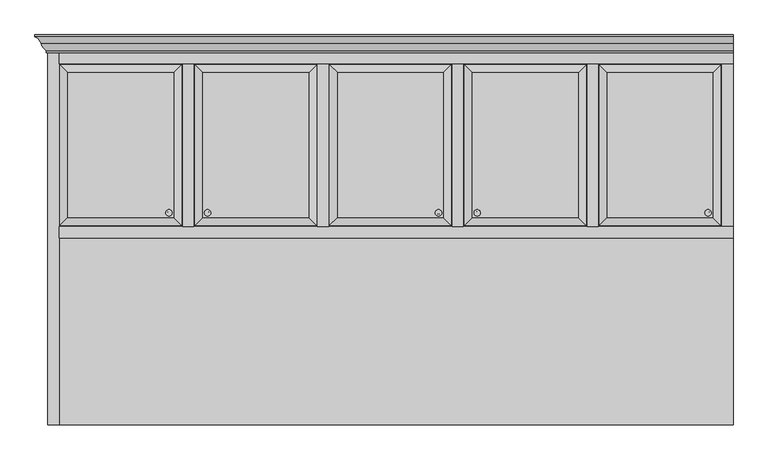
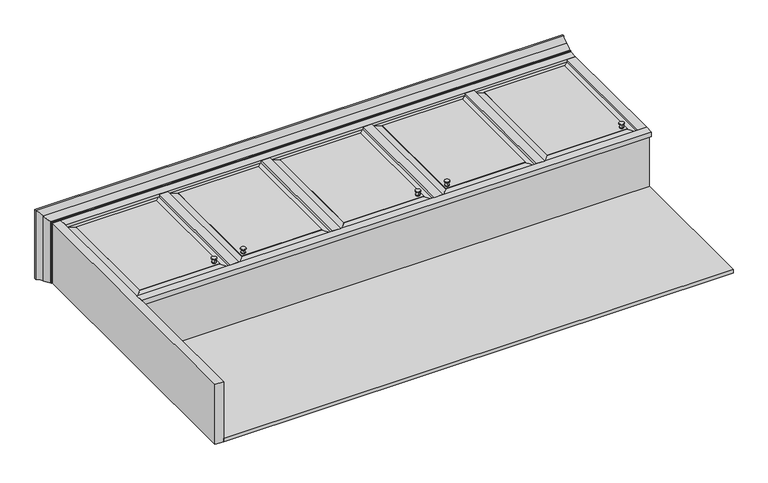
"""IFC4 building model written with IfcOpenShell, lengths in millimetres: proxy geometry, CCN^BRIGHTON_L4 HIGH RISE-5 DOOR SOLID ASSEMBLY."""

from ifc_helpers import new_model, si_unit, point, frame, origin, origin_with_axes, place, context, project, spatial, polyline, circle_curve, ellipse_curve, trimmed, outline, extrude, faceted_brep, source, transform, mapped, element, save
from ifc_brep_helpers import plane_surface, cylinder_surface, revolved_surface, advanced_brep


def generic_models_944e4012(model_context):
    return source(origin(), model_context, "Body", "SolidModel", [
        advanced_brep(
        [(476.885, 822.525, 351.2), (476.885, 822.525, 355.2), (476.885, 847.525, 355.2), (476.885, 847.525, 351.2), (476.885, 828.525, 342.1285106), (476.885, 824.525, 334.2), (476.885, 845.525, 334.2), (476.885, 841.525, 342.1285106), (476.885, 824.525, 330.2), (476.885, 845.525, 330.2)],
        [
            (0, 1),
            (1, 2, circle_curve(frame((476.885, 835.025, 355.2), z_axis=(0.0, 0.0, -1.0), x_axis=(0.0, -1.0, 0.0)), 12.5)),
            (2, 3),
            (3, 0, circle_curve(frame((476.885, 835.025, 351.2), z_axis=(0.0, 0.0, 1.0), x_axis=(0.0, -1.0, 0.0)), 12.5)),
            (0, 4, circle_curve(frame((476.885, 818.66734, 342.1285106), z_axis=(-1.0, 0.0, 0.0), x_axis=(0.0, -1.0, 0.0)), 9.85766)),
            (4, 5, circle_curve(frame((476.885, 818.66734, 342.1285106), z_axis=(-1.0, 0.0, 0.0), x_axis=(0.0, -1.0, 0.0)), 9.85766)),
            (5, 6, circle_curve(frame((476.885, 835.025, 334.2), z_axis=(0.0, 0.0, 1.0), x_axis=(0.0, -1.0, 0.0)), 10.5)),
            (6, 7, circle_curve(frame((476.885, 851.38266, 342.1285106), z_axis=(-1.0, 0.0, 0.0), x_axis=(0.0, 1.0, 0.0)), 9.85766)),
            (7, 3, circle_curve(frame((476.885, 851.38266, 342.1285106), z_axis=(-1.0, 0.0, 0.0), x_axis=(0.0, 1.0, 0.0)), 9.85766)),
            (3, 0, circle_curve(frame((476.885, 835.025, 351.2), z_axis=(0.0, 0.0, -1.0), x_axis=(0.0, -1.0, 0.0)), 12.5)),
            (8, 5),
            (5, 6, circle_curve(frame((476.885, 835.025, 334.2), z_axis=(0.0, 0.0, -1.0), x_axis=(0.0, -1.0, 0.0)), 10.5)),
            (6, 9),
            (9, 8, circle_curve(frame((476.885, 835.025, 330.2), z_axis=(0.0, 0.0, 1.0), x_axis=(0.0, -1.0, 0.0)), 10.5)),
            (9, 8, circle_curve(frame((476.885, 835.025, 330.2), z_axis=(0.0, 0.0, -1.0), x_axis=(0.0, -1.0, 0.0)), 10.5)),
            (2, 1, circle_curve(frame((476.885, 835.025, 355.2), z_axis=(0.0, 0.0, -1.0), x_axis=(0.0, -1.0, 0.0)), 12.5)),
        ],
        [
            cylinder_surface(frame((476.885, 835.025, 353.2), z_axis=(0.0, 0.0, 1.0), x_axis=(0.0, -1.0, 0.0)), 12.5),
            revolved_surface(trimmed(ellipse_curve(frame((476.885, 818.66734, 342.1285106), z_axis=(1.0, 0.0, 0.0), x_axis=(0.0, -1.0, 0.0)), 9.85766, 9.85766), [point((476.885, 824.525, 334.2))], [point((476.885, 822.525, 351.2))], True, "CARTESIAN"), (476.885, 835.025, 342.1285106), (0.0, 0.0, 1.0)),
            cylinder_surface(frame((476.885, 835.025, 332.2), z_axis=(0.0, 0.0, 1.0), x_axis=(0.0, -1.0, 0.0)), 10.5),
            plane_surface(frame((476.885, 824.525, 330.2), z_axis=(0.0, 0.0, -1.0), x_axis=(0.0, 1.0, 0.0))),
            revolved_surface(trimmed(ellipse_curve(frame((476.885, 851.38266, 342.1285106), z_axis=(-1.0, 0.0, 0.0), x_axis=(0.0, 1.0, 0.0)), 9.85766, 9.85766), [point((476.885, 845.525, 334.2))], [point((476.885, 847.525, 351.2))], True, "CARTESIAN"), (476.885, 835.025, 342.1285106), (0.0, 0.0, 1.0)),
            plane_surface(frame((476.885, 835.025, 355.2), z_axis=(0.0, 0.0, 1.0), x_axis=(0.0, -1.0, 0.0))),
        ],
        [
            (0, [[1, 2, 3, 4]]),
            (1, [[5, 6, 7, 8, 9, 10]]),
            (2, [[11, 12, 13, 14]]),
            (3, [[15, -14]]),
            (2, [[-11, -15, -13, -7]]),
            (4, [[-5, -4, -9, -8, -12, -6]]),
            (0, [[-1, -10, -3, 16]]),
            (5, [[-16, -2]]),
        ],
    ),
        advanced_brep(
        [(1691.005, 822.525, 351.2), (1691.005, 822.525, 355.2), (1691.005, 847.525, 355.2), (1691.005, 847.525, 351.2), (1691.005, 828.525, 342.1285106), (1691.005, 824.525, 334.2), (1691.005, 845.525, 334.2), (1691.005, 841.525, 342.1285106), (1691.005, 824.525, 330.2), (1691.005, 845.525, 330.2)],
        [
            (0, 1),
            (1, 2, circle_curve(frame((1691.005, 835.025, 355.2), z_axis=(0.0, 0.0, -1.0), x_axis=(0.0, -1.0, 0.0)), 12.5)),
            (2, 3),
            (3, 0, circle_curve(frame((1691.005, 835.025, 351.2), z_axis=(0.0, 0.0, 1.0), x_axis=(0.0, -1.0, 0.0)), 12.5)),
            (0, 4, circle_curve(frame((1691.005, 818.66734, 342.1285106), z_axis=(-1.0, 0.0, 0.0), x_axis=(0.0, -1.0, 0.0)), 9.85766)),
            (4, 5, circle_curve(frame((1691.005, 818.66734, 342.1285106), z_axis=(-1.0, 0.0, 0.0), x_axis=(0.0, -1.0, 0.0)), 9.85766)),
            (5, 6, circle_curve(frame((1691.005, 835.025, 334.2), z_axis=(0.0, 0.0, 1.0), x_axis=(0.0, -1.0, 0.0)), 10.5)),
            (6, 7, circle_curve(frame((1691.005, 851.38266, 342.1285106), z_axis=(-1.0, 0.0, 0.0), x_axis=(0.0, 1.0, 0.0)), 9.85766)),
            (7, 3, circle_curve(frame((1691.005, 851.38266, 342.1285106), z_axis=(-1.0, 0.0, 0.0), x_axis=(0.0, 1.0, 0.0)), 9.85766)),
            (3, 0, circle_curve(frame((1691.005, 835.025, 351.2), z_axis=(0.0, 0.0, -1.0), x_axis=(0.0, -1.0, 0.0)), 12.5)),
            (8, 5),
            (5, 6, circle_curve(frame((1691.005, 835.025, 334.2), z_axis=(0.0, 0.0, -1.0), x_axis=(0.0, -1.0, 0.0)), 10.5)),
            (6, 9),
            (9, 8, circle_curve(frame((1691.005, 835.025, 330.2), z_axis=(0.0, 0.0, 1.0), x_axis=(0.0, -1.0, 0.0)), 10.5)),
            (9, 8, circle_curve(frame((1691.005, 835.025, 330.2), z_axis=(0.0, 0.0, -1.0), x_axis=(0.0, -1.0, 0.0)), 10.5)),
            (2, 1, circle_curve(frame((1691.005, 835.025, 355.2), z_axis=(0.0, 0.0, -1.0), x_axis=(0.0, -1.0, 0.0)), 12.5)),
        ],
        [
            cylinder_surface(frame((1691.005, 835.025, 353.2), z_axis=(0.0, 0.0, 1.0), x_axis=(0.0, -1.0, 0.0)), 12.5),
            revolved_surface(trimmed(ellipse_curve(frame((1691.005, 818.66734, 342.1285106), z_axis=(1.0, 0.0, 0.0), x_axis=(0.0, -1.0, 0.0)), 9.85766, 9.85766), [point((1691.005, 824.525, 334.2))], [point((1691.005, 822.525, 351.2))], True, "CARTESIAN"), (1691.005, 835.025, 342.1285106), (0.0, 0.0, 1.0)),
            cylinder_surface(frame((1691.005, 835.025, 332.2), z_axis=(0.0, 0.0, 1.0), x_axis=(0.0, -1.0, 0.0)), 10.5),
            plane_surface(frame((1691.005, 824.525, 330.2), z_axis=(0.0, 0.0, -1.0), x_axis=(0.0, 1.0, 0.0))),
            revolved_surface(trimmed(ellipse_curve(frame((1691.005, 851.38266, 342.1285106), z_axis=(-1.0, 0.0, 0.0), x_axis=(0.0, 1.0, 0.0)), 9.85766, 9.85766), [point((1691.005, 845.525, 334.2))], [point((1691.005, 847.525, 351.2))], True, "CARTESIAN"), (1691.005, 835.025, 342.1285106), (0.0, 0.0, 1.0)),
            plane_surface(frame((1691.005, 835.025, 355.2), z_axis=(0.0, 0.0, 1.0), x_axis=(0.0, -1.0, 0.0))),
        ],
        [
            (0, [[1, 2, 3, 4]]),
            (1, [[5, 6, 7, 8, 9, 10]]),
            (2, [[11, 12, 13, 14]]),
            (3, [[15, -14]]),
            (2, [[-11, -15, -13, -7]]),
            (4, [[-5, -4, -9, -8, -12, -6]]),
            (0, [[-1, -10, -3, 16]]),
            (5, [[-16, -2]]),
        ],
    ),
        extrude(outline(polyline([(0.0, 1485.9), (2698.75, 1485.9), (2698.75, 1466.85), (0.0, 1466.85), (0.0, 1485.9)])), origin_with_axes(), (0.0, 0.0, 1.0), 330.2),
        extrude(outline(polyline([(44.45, 1422.4), (44.45, 1466.85), (2698.75, 1466.85), (2698.75, 1422.4), (44.45, 1422.4)])), frame((0.0, 0.0, 304.8), z_axis=(0.0, 0.0, 1.0), x_axis=(1.0, 0.0, 0.0)), (0.0, 0.0, 1.0), 25.4),
        faceted_brep([(495.935, 1387.475, 327.025), (495.935, 815.975, 327.025), (527.685, 784.225, 318.5176131), (527.685, 1419.225, 318.5176131), (47.625, 784.225, 318.5176131), (79.375, 815.975, 327.025), (47.625, 1419.225, 318.5176131), (79.375, 1387.475, 327.025), (527.685, 1419.225, 304.8), (47.625, 1419.225, 304.8), (527.685, 784.225, 304.8), (495.935, 815.975, 330.2), (79.375, 815.975, 330.2), (79.375, 1387.475, 330.2), (495.935, 1387.475, 330.2), (47.625, 784.225, 304.8)], [[[0, 1, 2, 3]], [[4, 2, 1, 5]], [[6, 4, 5, 7]], [[3, 6, 7, 0]], [[6, 3, 8, 9]], [[3, 2, 10, 8]], [[11, 12, 5, 1]], [[12, 13, 7, 5]], [[13, 14, 0, 7]], [[14, 11, 1, 0]], [[4, 6, 9, 15]], [[2, 4, 15, 10]], [[12, 11, 14, 13]], [[10, 15, 9, 8]]]),
        extrude(outline(polyline([(2698.75, 0.0), (44.45, 0.0), (44.45, 1466.85), (2698.75, 1466.85), (2698.75, 0.0)])), origin_with_axes(), (0.0, 0.0, 1.0), 19.05),
        extrude(outline(polyline([(44.45, 781.05), (2698.75, 781.05), (2698.75, 755.65), (44.45, 755.65), (44.45, 781.05)])), frame((0.0, 0.0, 19.05), z_axis=(0.0, 0.0, 1.0), x_axis=(1.0, 0.0, 0.0)), (0.0, 0.0, 1.0), 285.75),
        advanced_brep(
        [(23.5654847, 1466.85, 0.0), (-25.3440118, 1536.7, 0.0), (-25.3440118, 1536.7, 355.5440118), (23.5654847, 1466.85, 306.6345153), (-5.5626, 1466.85, 0.0), (-5.5626, 1473.5900246, 0.0), (-26.7133719, 1502.7938145, 0.0), (-50.8, 1528.7752, 0.0), (-50.8, 1536.7, 0.0), (2698.75, 1466.85, 306.6345153), (2698.75, 1466.85, 335.7626), (-5.5626, 1466.85, 335.7626), (2698.75, 1536.7, 355.5440118), (2698.75, 1536.7, 381.0), (2698.75, 1528.7752, 381.0), (2698.75, 1502.7938145, 356.9133719), (2698.75, 1473.5900246, 335.7626), (-5.5626, 1473.5900246, 335.7626), (-26.7133719, 1502.7938145, 356.9133719), (-50.8, 1528.7752, 381.0), (-50.8, 1536.7, 381.0)],
        [
            (0, 1),
            (1, 2),
            (2, 3),
            (3, 0),
            (0, 4),
            (4, 5),
            (5, 6, circle_curve(frame((22.3266, 1516.0498, 0.0), z_axis=(0.0, 0.0, -1.0), x_axis=(-1.0, 0.0, 0.0)), 50.8)),
            (6, 7, circle_curve(frame((-63.4933509, 1492.8518254, 0.0), z_axis=(0.0, 0.0, 1.0), x_axis=(-1.0, 0.0, 0.0)), 38.1)),
            (7, 8),
            (8, 1),
            (3, 9),
            (9, 10),
            (10, 11),
            (11, 4),
            (9, 12),
            (12, 13),
            (13, 14),
            (14, 15, circle_curve(frame((2698.75, 1492.8518254, 393.6933509), z_axis=(-1.0, 0.0, 0.0), x_axis=(0.0, 0.2609445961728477, -0.965353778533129)), 38.1)),
            (15, 16, circle_curve(frame((2698.75, 1516.0498, 307.8734), z_axis=(1.0, 0.0, 0.0), x_axis=(0.0, 0.260944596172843, -0.9653537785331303)), 50.8)),
            (16, 10),
            (17, 18, ellipse_curve(frame((22.3266, 1516.0498, 307.8734), z_axis=(-0.7071067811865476, 0.0, -0.7071067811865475), x_axis=(0.7071067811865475, 0.0, -0.7071067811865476)), 71.842049, 50.8)),
            (18, 6),
            (5, 17),
            (11, 17),
            (19, 20),
            (20, 8),
            (7, 19),
            (18, 19, ellipse_curve(frame((-63.4933509, 1492.8518254, 393.6933509), z_axis=(0.7071067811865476, 0.0, 0.7071067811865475), x_axis=(0.7071067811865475, 0.0, -0.7071067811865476)), 53.8815367, 38.1)),
            (17, 16),
            (15, 18),
            (2, 12),
            (14, 19),
            (20, 13),
        ],
        [
            plane_surface(frame((-25.3440118, 1536.7, 355.5440118), z_axis=(0.8191520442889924, 0.5735764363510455, 0.0), x_axis=(0.49754281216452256, -0.7105647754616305, -0.49754281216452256))),
            plane_surface(frame((-50.8, 1536.7, 0.0), z_axis=(0.0, 0.0, -1.0), x_axis=(-1.0, 0.0, 0.0))),
            plane_surface(frame((1323.975, 1466.85, 190.5), z_axis=(0.0, -1.0, 0.0), x_axis=(0.0, 0.0, -1.0))),
            plane_surface(frame((2698.75, 1492.25, 381.0), z_axis=(1.0, 0.0, 0.0), x_axis=(0.0, 0.0, -1.0))),
            cylinder_surface(frame((22.3266, 1516.0498, 307.8734), z_axis=(0.0, 0.0, -1.0), x_axis=(-1.0, 0.0, 0.0)), 50.8),
            plane_surface(frame((-5.5626, 1466.85, 335.7626), z_axis=(-1.0, 0.0, 0.0), x_axis=(0.0, 1.0, 0.0))),
            plane_surface(frame((-50.8, 1528.7752, 381.0), z_axis=(-1.0, 0.0, 0.0), x_axis=(0.0, 1.0, 0.0))),
            revolved_surface(polyline([(-101.5933509, 1492.8518254, 0.0), (-101.5933509, 1492.8518254, 431.7933508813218)]), (-63.4933509, 1492.8518254, 393.6933509), (0.0, 0.0, -1.0)),
            cylinder_surface(frame((2698.75, 1516.0498, 307.8734), z_axis=(-1.0000000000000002, 0.0, 0.0), x_axis=(0.0, 0.260944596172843, -0.9653537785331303)), 50.8),
            plane_surface(frame((2698.75, 1473.5900246, 335.7626), z_axis=(0.0, 0.0, 1.0), x_axis=(0.0, -1.0, 0.0))),
            plane_surface(frame((2698.75, 1500.505, 330.2), z_axis=(0.0, 0.5735764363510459, -0.819152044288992), x_axis=(0.0, 0.819152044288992, 0.5735764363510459))),
            revolved_surface(polyline([(-101.59335088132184, 1502.7938145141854, 356.91337193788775), (2698.75, 1502.7938145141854, 356.91337193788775)]), (2698.75, 1492.8518254, 393.6933509), (-1.0, 0.0, 0.0)),
            plane_surface(frame((1323.975, 1536.7, 190.5), z_axis=(0.0, 1.0, 0.0), x_axis=(0.0, 0.0, 1.0))),
            plane_surface(frame((-50.8, 1492.25, 381.0), z_axis=(0.0, 0.0, 1.0), x_axis=(1.0, 0.0, 0.0))),
        ],
        [
            (0, [[1, 2, 3, 4]]),
            (1, [[-1, 5, 6, 7, 8, 9, 10]]),
            (2, [[-4, 11, 12, 13, 14, -5]]),
            (3, [[-12, 15, 16, 17, 18, 19, 20]]),
            (4, [[21, 22, -7, 23]]),
            (5, [[24, -23, -6, -14]]),
            (6, [[25, 26, -9, 27]]),
            (7, [[28, -27, -8, -22]]),
            (8, [[29, -19, 30, -21]]),
            (9, [[-13, -20, -29, -24]]),
            (10, [[31, -15, -11, -3]]),
            (11, [[-30, -18, 32, -28]]),
            (12, [[33, -16, -31, -2, -10, -26]]),
            (13, [[-32, -17, -33, -25]]),
        ],
    ),
        faceted_brep([(1557.655, 1387.475, 327.025), (1557.655, 815.975, 327.025), (1589.405, 784.225, 318.5176131), (1589.405, 1419.225, 318.5176131), (1109.345, 784.225, 318.5176131), (1141.095, 815.975, 327.025), (1109.345, 1419.225, 318.5176131), (1141.095, 1387.475, 327.025), (1589.405, 1419.225, 304.8), (1109.345, 1419.225, 304.8), (1589.405, 784.225, 304.8), (1141.095, 1387.475, 330.2), (1557.655, 1387.475, 330.2), (1557.655, 815.975, 330.2), (1141.095, 815.975, 330.2), (1109.345, 784.225, 304.8)], [[[0, 1, 2, 3]], [[4, 2, 1, 5]], [[6, 4, 5, 7]], [[3, 6, 7, 0]], [[6, 3, 8, 9]], [[3, 2, 10, 8]], [[11, 12, 0, 7]], [[12, 13, 1, 0]], [[13, 14, 5, 1]], [[14, 11, 7, 5]], [[4, 6, 9, 15]], [[2, 4, 15, 10]], [[12, 11, 14, 13]], [[10, 15, 9, 8]]]),
        extrude(outline(polyline([(1106.17, 781.05), (1061.72, 781.05), (1061.72, 1422.4), (1106.17, 1422.4), (1106.17, 781.05)])), frame((0.0, 0.0, 304.8), z_axis=(0.0, 0.0, 1.0), x_axis=(1.0, 0.0, 0.0)), (0.0, 0.0, 1.0), 25.4),
        extrude(outline(polyline([(1637.03, 781.05), (1592.58, 781.05), (1592.58, 1422.4), (1637.03, 1422.4), (1637.03, 781.05)])), frame((0.0, 0.0, 304.8), z_axis=(0.0, 0.0, 1.0), x_axis=(1.0, 0.0, 0.0)), (0.0, 0.0, 1.0), 25.4),
        extrude(outline(polyline([(575.31, 781.05), (530.86, 781.05), (530.86, 1422.4), (575.31, 1422.4), (575.31, 781.05)])), frame((0.0, 0.0, 304.8), z_axis=(0.0, 0.0, 1.0), x_axis=(1.0, 0.0, 0.0)), (0.0, 0.0, 1.0), 25.4),
        extrude(outline(polyline([(2167.89, 781.05), (2123.44, 781.05), (2123.44, 1422.4), (2167.89, 1422.4), (2167.89, 781.05)])), frame((0.0, 0.0, 304.8), z_axis=(0.0, 0.0, 1.0), x_axis=(1.0, 0.0, 0.0)), (0.0, 0.0, 1.0), 25.4),
        extrude(outline(polyline([(2698.75, 736.6), (44.45, 736.6), (44.45, 781.05), (2698.75, 781.05), (2698.75, 736.6)])), frame((0.0, 0.0, 304.8), z_axis=(0.0, 0.0, 1.0), x_axis=(1.0, 0.0, 0.0)), (0.0, 0.0, 1.0), 25.4),
        extrude(outline(polyline([(44.45, 1466.85), (44.45, 0.0), (0.0, 0.0), (0.0, 1466.85), (44.45, 1466.85)])), origin_with_axes(), (0.0, 0.0, 1.0), 330.2),
        faceted_brep([(610.235, 815.975, 327.025), (610.235, 1387.475, 327.025), (578.485, 1419.225, 318.5176131), (578.485, 784.225, 318.5176131), (1058.545, 1419.225, 318.5176131), (1026.795, 1387.475, 327.025), (1058.545, 784.225, 318.5176131), (1026.795, 815.975, 327.025), (578.485, 784.225, 304.8), (1058.545, 784.225, 304.8), (578.485, 1419.225, 304.8), (610.235, 1387.475, 330.2), (1026.795, 1387.475, 330.2), (1026.795, 815.975, 330.2), (610.235, 815.975, 330.2), (1058.545, 1419.225, 304.8)], [[[0, 1, 2, 3]], [[4, 2, 1, 5]], [[6, 4, 5, 7]], [[3, 6, 7, 0]], [[6, 3, 8, 9]], [[3, 2, 10, 8]], [[11, 12, 5, 1]], [[12, 13, 7, 5]], [[13, 14, 0, 7]], [[14, 11, 1, 0]], [[2, 4, 15, 10]], [[4, 6, 9, 15]], [[12, 11, 14, 13]], [[9, 8, 10, 15]]]),
        faceted_brep([(1671.955, 815.975, 327.025), (1671.955, 1387.475, 327.025), (1640.205, 1419.225, 318.5176131), (1640.205, 784.225, 318.5176131), (2120.265, 1419.225, 318.5176131), (2088.515, 1387.475, 327.025), (2120.265, 784.225, 318.5176131), (2088.515, 815.975, 327.025), (1640.205, 784.225, 304.8), (2120.265, 784.225, 304.8), (1640.205, 1419.225, 304.8), (1671.955, 1387.475, 330.2), (2088.515, 1387.475, 330.2), (2088.515, 815.975, 330.2), (1671.955, 815.975, 330.2), (2120.265, 1419.225, 304.8)], [[[0, 1, 2, 3]], [[4, 2, 1, 5]], [[6, 4, 5, 7]], [[3, 6, 7, 0]], [[6, 3, 8, 9]], [[3, 2, 10, 8]], [[11, 12, 5, 1]], [[12, 13, 7, 5]], [[13, 14, 0, 7]], [[14, 11, 1, 0]], [[2, 4, 15, 10]], [[4, 6, 9, 15]], [[12, 11, 14, 13]], [[9, 8, 10, 15]]]),
        extrude(outline(polyline([(2698.75, 1422.4), (2698.75, 781.05), (2654.3, 781.05), (2654.3, 1422.4), (2698.75, 1422.4)])), frame((0.0, 0.0, 304.8), z_axis=(0.0, 0.0, 1.0), x_axis=(1.0, 0.0, 0.0)), (0.0, 0.0, 1.0), 25.4),
        faceted_brep([(2202.815, 1387.475, 327.025), (2619.375, 1387.475, 327.025), (2651.125, 1419.225, 318.5176131), (2171.065, 1419.225, 318.5176131), (2651.125, 784.225, 318.5176131), (2619.375, 815.975, 327.025), (2171.065, 784.225, 318.5176131), (2202.815, 815.975, 327.025), (2171.065, 1419.225, 304.8), (2171.065, 784.225, 304.8), (2651.125, 1419.225, 304.8), (2202.815, 1387.475, 330.2), (2619.375, 1387.475, 330.2), (2619.375, 815.975, 330.2), (2202.815, 815.975, 330.2), (2651.125, 784.225, 304.8)], [[[0, 1, 2, 3]], [[4, 2, 1, 5]], [[6, 4, 5, 7]], [[3, 6, 7, 0]], [[6, 3, 8, 9]], [[3, 2, 10, 8]], [[11, 12, 1, 0]], [[12, 13, 5, 1]], [[13, 14, 7, 5]], [[14, 11, 0, 7]], [[2, 4, 15, 10]], [[4, 6, 9, 15]], [[12, 11, 14, 13]], [[15, 9, 8, 10]]]),
        extrude(outline(polyline([(63.5, 1466.85), (63.5, 781.05), (44.45, 781.05), (44.45, 1466.85), (63.5, 1466.85)])), frame((0.0, 0.0, 19.05), z_axis=(0.0, 0.0, 1.0), x_axis=(1.0, 0.0, 0.0)), (0.0, 0.0, 1.0), 285.75),
        advanced_brep(
        [(1538.605, 822.525, 351.2), (1538.605, 822.525, 355.2), (1538.605, 847.525, 355.2), (1538.605, 847.525, 351.2), (1538.605, 828.525, 342.1285106), (1538.605, 824.525, 334.2), (1538.605, 845.525, 334.2), (1538.605, 841.525, 342.1285106), (1538.605, 824.525, 330.2), (1538.605, 845.525, 330.2)],
        [
            (0, 1),
            (1, 2, circle_curve(frame((1538.605, 835.025, 355.2), z_axis=(0.0, 0.0, -1.0), x_axis=(0.0, -1.0, 0.0)), 12.5)),
            (2, 3),
            (3, 0, circle_curve(frame((1538.605, 835.025, 351.2), z_axis=(0.0, 0.0, 1.0), x_axis=(0.0, -1.0, 0.0)), 12.5)),
            (0, 4, circle_curve(frame((1538.605, 818.66734, 342.1285106), z_axis=(-1.0, 0.0, 0.0), x_axis=(0.0, -1.0, 0.0)), 9.85766)),
            (4, 5, circle_curve(frame((1538.605, 818.66734, 342.1285106), z_axis=(-1.0, 0.0, 0.0), x_axis=(0.0, -1.0, 0.0)), 9.85766)),
            (5, 6, circle_curve(frame((1538.605, 835.025, 334.2), z_axis=(0.0, 0.0, 1.0), x_axis=(0.0, -1.0, 0.0)), 10.5)),
            (6, 7, circle_curve(frame((1538.605, 851.38266, 342.1285106), z_axis=(-1.0, 0.0, 0.0), x_axis=(0.0, 1.0, 0.0)), 9.85766)),
            (7, 3, circle_curve(frame((1538.605, 851.38266, 342.1285106), z_axis=(-1.0, 0.0, 0.0), x_axis=(0.0, 1.0, 0.0)), 9.85766)),
            (3, 0, circle_curve(frame((1538.605, 835.025, 351.2), z_axis=(0.0, 0.0, -1.0), x_axis=(0.0, -1.0, 0.0)), 12.5)),
            (8, 5),
            (5, 6, circle_curve(frame((1538.605, 835.025, 334.2), z_axis=(0.0, 0.0, -1.0), x_axis=(0.0, -1.0, 0.0)), 10.5)),
            (6, 9),
            (9, 8, circle_curve(frame((1538.605, 835.025, 330.2), z_axis=(0.0, 0.0, 1.0), x_axis=(0.0, -1.0, 0.0)), 10.5)),
            (9, 8, circle_curve(frame((1538.605, 835.025, 330.2), z_axis=(0.0, 0.0, -1.0), x_axis=(0.0, -1.0, 0.0)), 10.5)),
            (2, 1, circle_curve(frame((1538.605, 835.025, 355.2), z_axis=(0.0, 0.0, -1.0), x_axis=(0.0, -1.0, 0.0)), 12.5)),
        ],
        [
            cylinder_surface(frame((1538.605, 835.025, 353.2), z_axis=(0.0, 0.0, 1.0), x_axis=(0.0, -1.0, 0.0)), 12.5),
            revolved_surface(trimmed(ellipse_curve(frame((1538.605, 818.66734, 342.1285106), z_axis=(1.0, 0.0, 0.0), x_axis=(0.0, -1.0, 0.0)), 9.85766, 9.85766), [point((1538.605, 824.525, 334.2))], [point((1538.605, 822.525, 351.2))], True, "CARTESIAN"), (1538.605, 835.025, 342.1285106), (0.0, 0.0, 1.0)),
            cylinder_surface(frame((1538.605, 835.025, 332.2), z_axis=(0.0, 0.0, 1.0), x_axis=(0.0, -1.0, 0.0)), 10.5),
            plane_surface(frame((1538.605, 824.525, 330.2), z_axis=(0.0, 0.0, -1.0), x_axis=(0.0, 1.0, 0.0))),
            revolved_surface(trimmed(ellipse_curve(frame((1538.605, 851.38266, 342.1285106), z_axis=(-1.0, 0.0, 0.0), x_axis=(0.0, 1.0, 0.0)), 9.85766, 9.85766), [point((1538.605, 845.525, 334.2))], [point((1538.605, 847.525, 351.2))], True, "CARTESIAN"), (1538.605, 835.025, 342.1285106), (0.0, 0.0, 1.0)),
            plane_surface(frame((1538.605, 835.025, 355.2), z_axis=(0.0, 0.0, 1.0), x_axis=(0.0, -1.0, 0.0))),
        ],
        [
            (0, [[1, 2, 3, 4]]),
            (1, [[5, 6, 7, 8, 9, 10]]),
            (2, [[11, 12, 13, 14]]),
            (3, [[15, -14]]),
            (2, [[-11, -15, -13, -7]]),
            (4, [[-5, -4, -9, -8, -12, -6]]),
            (0, [[-1, -10, -3, 16]]),
            (5, [[-16, -2]]),
        ],
    ),
        advanced_brep(
        [(629.285, 822.525, 351.2), (629.285, 822.525, 355.2), (629.285, 847.525, 355.2), (629.285, 847.525, 351.2), (629.285, 828.525, 342.1285106), (629.285, 824.525, 334.2), (629.285, 845.525, 334.2), (629.285, 841.525, 342.1285106), (629.285, 824.525, 330.2), (629.285, 845.525, 330.2)],
        [
            (0, 1),
            (1, 2, circle_curve(frame((629.285, 835.025, 355.2), z_axis=(0.0, 0.0, -1.0), x_axis=(0.0, -1.0, 0.0)), 12.5)),
            (2, 3),
            (3, 0, circle_curve(frame((629.285, 835.025, 351.2), z_axis=(0.0, 0.0, 1.0), x_axis=(0.0, -1.0, 0.0)), 12.5)),
            (0, 4, circle_curve(frame((629.285, 818.66734, 342.1285106), z_axis=(-1.0, 0.0, 0.0), x_axis=(0.0, -1.0, 0.0)), 9.85766)),
            (4, 5, circle_curve(frame((629.285, 818.66734, 342.1285106), z_axis=(-1.0, 0.0, 0.0), x_axis=(0.0, -1.0, 0.0)), 9.85766)),
            (5, 6, circle_curve(frame((629.285, 835.025, 334.2), z_axis=(0.0, 0.0, 1.0), x_axis=(0.0, -1.0, 0.0)), 10.5)),
            (6, 7, circle_curve(frame((629.285, 851.38266, 342.1285106), z_axis=(-1.0, 0.0, 0.0), x_axis=(0.0, 1.0, 0.0)), 9.85766)),
            (7, 3, circle_curve(frame((629.285, 851.38266, 342.1285106), z_axis=(-1.0, 0.0, 0.0), x_axis=(0.0, 1.0, 0.0)), 9.85766)),
            (3, 0, circle_curve(frame((629.285, 835.025, 351.2), z_axis=(0.0, 0.0, -1.0), x_axis=(0.0, -1.0, 0.0)), 12.5)),
            (8, 5),
            (5, 6, circle_curve(frame((629.285, 835.025, 334.2), z_axis=(0.0, 0.0, -1.0), x_axis=(0.0, -1.0, 0.0)), 10.5)),
            (6, 9),
            (9, 8, circle_curve(frame((629.285, 835.025, 330.2), z_axis=(0.0, 0.0, 1.0), x_axis=(0.0, -1.0, 0.0)), 10.5)),
            (9, 8, circle_curve(frame((629.285, 835.025, 330.2), z_axis=(0.0, 0.0, -1.0), x_axis=(0.0, -1.0, 0.0)), 10.5)),
            (2, 1, circle_curve(frame((629.285, 835.025, 355.2), z_axis=(0.0, 0.0, -1.0), x_axis=(0.0, -1.0, 0.0)), 12.5)),
        ],
        [
            cylinder_surface(frame((629.285, 835.025, 353.2), z_axis=(0.0, 0.0, 1.0), x_axis=(0.0, -1.0, 0.0)), 12.5),
            revolved_surface(trimmed(ellipse_curve(frame((629.285, 818.66734, 342.1285106), z_axis=(1.0, 0.0, 0.0), x_axis=(0.0, -1.0, 0.0)), 9.85766, 9.85766), [point((629.285, 824.525, 334.2))], [point((629.285, 822.525, 351.2))], True, "CARTESIAN"), (629.285, 835.025, 342.1285106), (0.0, 0.0, 1.0)),
            cylinder_surface(frame((629.285, 835.025, 332.2), z_axis=(0.0, 0.0, 1.0), x_axis=(0.0, -1.0, 0.0)), 10.5),
            plane_surface(frame((629.285, 824.525, 330.2), z_axis=(0.0, 0.0, -1.0), x_axis=(0.0, 1.0, 0.0))),
            revolved_surface(trimmed(ellipse_curve(frame((629.285, 851.38266, 342.1285106), z_axis=(-1.0, 0.0, 0.0), x_axis=(0.0, 1.0, 0.0)), 9.85766, 9.85766), [point((629.285, 845.525, 334.2))], [point((629.285, 847.525, 351.2))], True, "CARTESIAN"), (629.285, 835.025, 342.1285106), (0.0, 0.0, 1.0)),
            plane_surface(frame((629.285, 835.025, 355.2), z_axis=(0.0, 0.0, 1.0), x_axis=(0.0, -1.0, 0.0))),
        ],
        [
            (0, [[1, 2, 3, 4]]),
            (1, [[5, 6, 7, 8, 9, 10]]),
            (2, [[11, 12, 13, 14]]),
            (3, [[15, -14]]),
            (2, [[-11, -15, -13, -7]]),
            (4, [[-5, -4, -9, -8, -12, -6]]),
            (0, [[-1, -10, -3, 16]]),
            (5, [[-16, -2]]),
        ],
    ),
        advanced_brep(
        [(2600.325, 822.525, 351.2), (2600.325, 822.525, 355.2), (2600.325, 847.525, 355.2), (2600.325, 847.525, 351.2), (2600.325, 828.525, 342.1285106), (2600.325, 824.525, 334.2), (2600.325, 845.525, 334.2), (2600.325, 841.525, 342.1285106), (2600.325, 824.525, 330.2), (2600.325, 845.525, 330.2)],
        [
            (0, 1),
            (1, 2, circle_curve(frame((2600.325, 835.025, 355.2), z_axis=(0.0, 0.0, -1.0), x_axis=(0.0, -1.0, 0.0)), 12.5)),
            (2, 3),
            (3, 0, circle_curve(frame((2600.325, 835.025, 351.2), z_axis=(0.0, 0.0, 1.0), x_axis=(0.0, -1.0, 0.0)), 12.5)),
            (0, 4, circle_curve(frame((2600.325, 818.66734, 342.1285106), z_axis=(-1.0, 0.0, 0.0), x_axis=(0.0, -1.0, 0.0)), 9.85766)),
            (4, 5, circle_curve(frame((2600.325, 818.66734, 342.1285106), z_axis=(-1.0, 0.0, 0.0), x_axis=(0.0, -1.0, 0.0)), 9.85766)),
            (5, 6, circle_curve(frame((2600.325, 835.025, 334.2), z_axis=(0.0, 0.0, 1.0), x_axis=(0.0, -1.0, 0.0)), 10.5)),
            (6, 7, circle_curve(frame((2600.325, 851.38266, 342.1285106), z_axis=(-1.0, 0.0, 0.0), x_axis=(0.0, 1.0, 0.0)), 9.85766)),
            (7, 3, circle_curve(frame((2600.325, 851.38266, 342.1285106), z_axis=(-1.0, 0.0, 0.0), x_axis=(0.0, 1.0, 0.0)), 9.85766)),
            (3, 0, circle_curve(frame((2600.325, 835.025, 351.2), z_axis=(0.0, 0.0, -1.0), x_axis=(0.0, -1.0, 0.0)), 12.5)),
            (8, 5),
            (5, 6, circle_curve(frame((2600.325, 835.025, 334.2), z_axis=(0.0, 0.0, -1.0), x_axis=(0.0, -1.0, 0.0)), 10.5)),
            (6, 9),
            (9, 8, circle_curve(frame((2600.325, 835.025, 330.2), z_axis=(0.0, 0.0, 1.0), x_axis=(0.0, -1.0, 0.0)), 10.5)),
            (9, 8, circle_curve(frame((2600.325, 835.025, 330.2), z_axis=(0.0, 0.0, -1.0), x_axis=(0.0, -1.0, 0.0)), 10.5)),
            (2, 1, circle_curve(frame((2600.325, 835.025, 355.2), z_axis=(0.0, 0.0, -1.0), x_axis=(0.0, -1.0, 0.0)), 12.5)),
        ],
        [
            cylinder_surface(frame((2600.325, 835.025, 353.2), z_axis=(0.0, 0.0, 1.0), x_axis=(0.0, -1.0, 0.0)), 12.5),
            revolved_surface(trimmed(ellipse_curve(frame((2600.325, 818.66734, 342.1285106), z_axis=(1.0, 0.0, 0.0), x_axis=(0.0, -1.0, 0.0)), 9.85766, 9.85766), [point((2600.325, 824.525, 334.2))], [point((2600.325, 822.525, 351.2))], True, "CARTESIAN"), (2600.325, 835.025, 342.1285106), (0.0, 0.0, 1.0)),
            cylinder_surface(frame((2600.325, 835.025, 332.2), z_axis=(0.0, 0.0, 1.0), x_axis=(0.0, -1.0, 0.0)), 10.5),
            plane_surface(frame((2600.325, 824.525, 330.2), z_axis=(0.0, 0.0, -1.0), x_axis=(0.0, 1.0, 0.0))),
            revolved_surface(trimmed(ellipse_curve(frame((2600.325, 851.38266, 342.1285106), z_axis=(-1.0, 0.0, 0.0), x_axis=(0.0, 1.0, 0.0)), 9.85766, 9.85766), [point((2600.325, 845.525, 334.2))], [point((2600.325, 847.525, 351.2))], True, "CARTESIAN"), (2600.325, 835.025, 342.1285106), (0.0, 0.0, 1.0)),
            plane_surface(frame((2600.325, 835.025, 355.2), z_axis=(0.0, 0.0, 1.0), x_axis=(0.0, -1.0, 0.0))),
        ],
        [
            (0, [[1, 2, 3, 4]]),
            (1, [[5, 6, 7, 8, 9, 10]]),
            (2, [[11, 12, 13, 14]]),
            (3, [[15, -14]]),
            (2, [[-11, -15, -13, -7]]),
            (4, [[-5, -4, -9, -8, -12, -6]]),
            (0, [[-1, -10, -3, 16]]),
            (5, [[-16, -2]]),
        ],
    ),
    ])


if __name__ == "__main__":
    model = new_model("IFC4")
    model_context = context("Model", 3, world=origin())
    ifc_project = project(units=[si_unit("LENGTHUNIT", "METRE", prefix="MILLI")], contexts=[model_context])
    site = spatial("IfcSite", under=ifc_project)
    building = spatial("IfcBuilding", under=site)
    placement = place(None, origin())
    generic_models_shape = generic_models_944e4012(model_context)
    element("IfcBuildingElementProxy", 1, Name="CCN^BRIGHTON_L4 HIGH RISE-5 DOOR SOLID ASSEMBLY", ObjectType="CCN^BRIGHTON_L4 HIGH RISE-5 DOOR SOLID ASSEMBLY", at=placement, inside=building, context=model_context, shape_type="MappedRepresentation", body=[
        mapped(generic_models_shape, transform((0.0, 0.0, 0.0), x_axis=(1.0, 0.0, 0.0), y_axis=(0.0, 1.0, 0.0), z_axis=(0.0, 0.0, 1.0))),
    ])
    save(model, "model.ifc")
